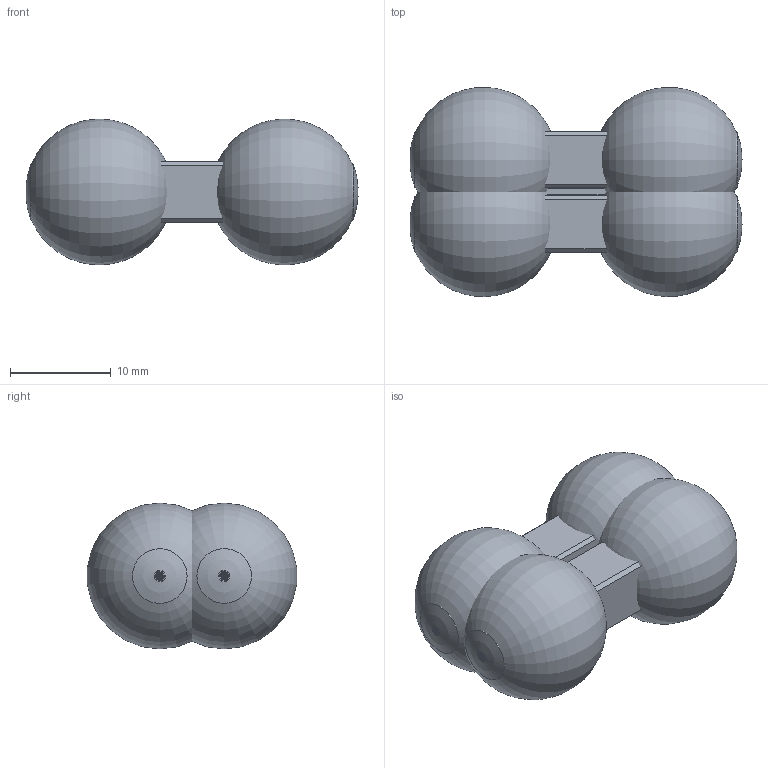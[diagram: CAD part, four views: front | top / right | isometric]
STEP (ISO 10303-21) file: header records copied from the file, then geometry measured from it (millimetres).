
FILE_DESCRIPTION(/* description */ ('STEP AP214'),/* implementation_level */ '2;1');
FILE_NAME(/* name */ 'VRG2M-30-Hx6Z (0)',/* time_stamp */ '2024-09-19T10:08:08+02:00',/* author */ ('License CC BY-ND 4.0'),/* organization */ ('CADENAS'),/* preprocessor_version */ 'ST-DEVELOPER v19.3',/* originating_system */ 'PARTsolutions',/* authorisation */ ' ');
FILE_SCHEMA (('AUTOMOTIVE_DESIGN {1 0 10303 214 3 1 1}'));
Length unit declared in the file: millimetre
Products named in the file (4): VRG2M-30-Hx6Z (0); VRG2M-30x6Z R1; VRG2M-30x6Z6C1; VRG2M-30x6Z R2
Assembly tree (3 placements, depth 2):
  VRG2M-30-Hx6Z (0)
    VRG2M-30x6Z R1
    VRG2M-30x6Z6C1
    VRG2M-30x6Z R2
Bounding box: 32.97 x 20.78 x 14.48 mm (x, y, z)
Volume: 4632.4 mm3; surface area: 4678.4 mm2
Topology: 3 solids, 3 shells, 182 faces, 504 edges, 324 vertices
Faces by surface type: plane 122, cylinder 32, cone 24, torus 4
Full cylindrical faces by diameter (mm): 2.55 x4, 4.4 x4
Entity records: 6377 total; most frequent: CARTESIAN_POINT 1006, DIRECTION 932, ORIENTED_EDGE 888, EDGE_CURVE 444, AXIS2_PLACEMENT_3D 326, VERTEX_POINT 304, LINE 280, VECTOR 280
